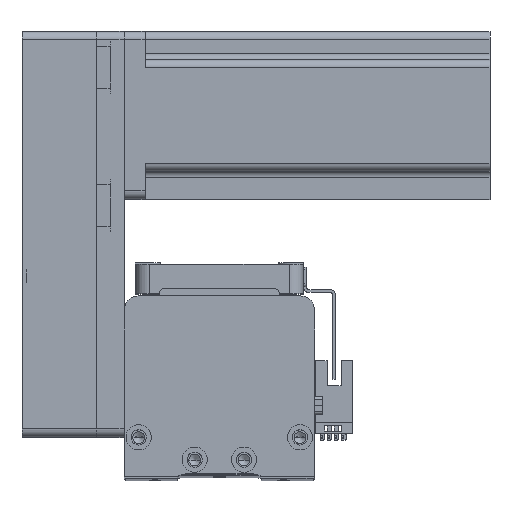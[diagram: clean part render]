
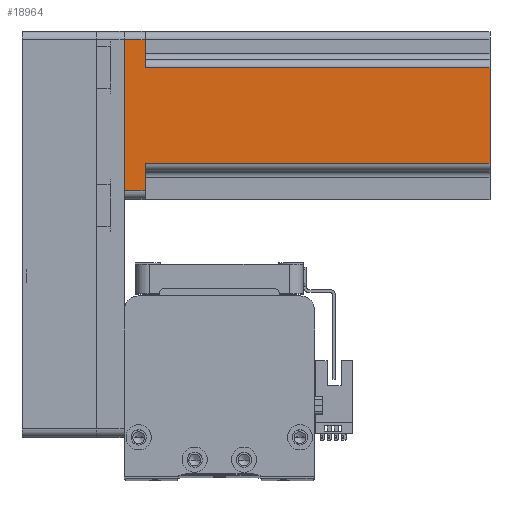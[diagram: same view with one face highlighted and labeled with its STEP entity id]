
A CAD part, top view. The second image highlights one B-rep face of the part: STEP entity #18964.
In plain terms, the highlighted planar face has unit normal (0, 0, 1) as drawn and (0, 1, 0) by its records, which use the part's own axes.
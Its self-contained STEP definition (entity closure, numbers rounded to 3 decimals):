
#1128 = CARTESIAN_POINT ( 'NONE',  ( -27., 30., 0. ) ) ;
#2646 = EDGE_CURVE ( 'NONE', #30415, #27267, #34848, .T. ) ;
#3675 = CARTESIAN_POINT ( 'NONE',  ( -17., 30., 130.7 ) ) ;
#3819 = ORIENTED_EDGE ( 'NONE', *, *, #31545, .T. ) ;
#4423 = PLANE ( 'NONE',  #18613 ) ;
#5655 = VERTEX_POINT ( 'NONE', #42567 ) ;
#6461 = DIRECTION ( 'NONE',  ( 1., 0., 0. ) ) ;
#6669 = CARTESIAN_POINT ( 'NONE',  ( 20., 30., 7.5 ) ) ;
#6757 = VERTEX_POINT ( 'NONE', #14602 ) ;
#7610 = CARTESIAN_POINT ( 'NONE',  ( -17., 30., 7.5 ) ) ;
#7940 = CARTESIAN_POINT ( 'NONE',  ( 27., 30., 0. ) ) ;
#7990 = CARTESIAN_POINT ( 'NONE',  ( -27., 30., 7.5 ) ) ;
#8862 = ORIENTED_EDGE ( 'NONE', *, *, #37207, .T. ) ;
#10083 = DIRECTION ( 'NONE',  ( -1., 0., 0. ) ) ;
#10267 = EDGE_CURVE ( 'NONE', #20567, #13159, #37855, .T. ) ;
#10533 = CARTESIAN_POINT ( 'NONE',  ( 27., 30., 130.7 ) ) ;
#11274 = CARTESIAN_POINT ( 'NONE',  ( 30., 30., 0. ) ) ;
#11606 = VECTOR ( 'NONE', #17337, 1000. ) ;
#12250 = CARTESIAN_POINT ( 'NONE',  ( 30., 30., 130.7 ) ) ;
#12578 = DIRECTION ( 'NONE',  ( 0., 0., 1. ) ) ;
#12686 = VECTOR ( 'NONE', #34375, 1000. ) ;
#13152 = LINE ( 'NONE', #32995, #35005 ) ;
#13159 = VERTEX_POINT ( 'NONE', #7610 ) ;
#14023 = VECTOR ( 'NONE', #32688, 1000. ) ;
#14602 = CARTESIAN_POINT ( 'NONE',  ( 27., 30., 7.5 ) ) ;
#14620 = CARTESIAN_POINT ( 'NONE',  ( 17., 30., 130.7 ) ) ;
#15663 = ORIENTED_EDGE ( 'NONE', *, *, #41218, .T. ) ;
#17337 = DIRECTION ( 'NONE',  ( 0., 0., 1. ) ) ;
#18077 = CARTESIAN_POINT ( 'NONE',  ( 30., 30., 130.7 ) ) ;
#18613 = AXIS2_PLACEMENT_3D ( 'NONE', #18077, #41889, #21501 ) ;
#18964 = ADVANCED_FACE ( 'NONE', ( #37758 ), #4423, .F. ) ;
#18972 = VERTEX_POINT ( 'NONE', #1128 ) ;
#20567 = VERTEX_POINT ( 'NONE', #7990 ) ;
#20588 = EDGE_LOOP ( 'NONE', ( #27795, #41539, #40770, #34418, #41704, #3819, #8862, #15663 ) ) ;
#20656 = LINE ( 'NONE', #3675, #11606 ) ;
#20772 = VECTOR ( 'NONE', #6461, 1000. ) ;
#21501 = DIRECTION ( 'NONE',  ( 1., 0., 0. ) ) ;
#27267 = VERTEX_POINT ( 'NONE', #36945 ) ;
#27405 = VECTOR ( 'NONE', #10083, 1000. ) ;
#27795 = ORIENTED_EDGE ( 'NONE', *, *, #10267, .T. ) ;
#28228 = DIRECTION ( 'NONE',  ( -1., 0., 0. ) ) ;
#29555 = LINE ( 'NONE', #6669, #27405 ) ;
#30279 = CARTESIAN_POINT ( 'NONE',  ( -20., 30., 7.5 ) ) ;
#30415 = VERTEX_POINT ( 'NONE', #14620 ) ;
#30816 = LINE ( 'NONE', #10533, #12686 ) ;
#31443 = EDGE_CURVE ( 'NONE', #6757, #27267, #29555, .T. ) ;
#31545 = EDGE_CURVE ( 'NONE', #6757, #41599, #30816, .T. ) ;
#31553 = EDGE_CURVE ( 'NONE', #13159, #5655, #20656, .T. ) ;
#31580 = CARTESIAN_POINT ( 'NONE',  ( 17., 30., 130.7 ) ) ;
#32139 = LINE ( 'NONE', #12250, #14023 ) ;
#32514 = DIRECTION ( 'NONE',  ( 0., 0., -1. ) ) ;
#32688 = DIRECTION ( 'NONE',  ( -1., 0., 0. ) ) ;
#32995 = CARTESIAN_POINT ( 'NONE',  ( -27., 30., 130.7 ) ) ;
#33535 = EDGE_CURVE ( 'NONE', #30415, #5655, #32139, .T. ) ;
#34375 = DIRECTION ( 'NONE',  ( 0., 0., -1. ) ) ;
#34418 = ORIENTED_EDGE ( 'NONE', *, *, #2646, .T. ) ;
#34756 = LINE ( 'NONE', #11274, #42672 ) ;
#34848 = LINE ( 'NONE', #31580, #40657 ) ;
#35005 = VECTOR ( 'NONE', #12578, 1000. ) ;
#36945 = CARTESIAN_POINT ( 'NONE',  ( 17., 30., 7.5 ) ) ;
#37207 = EDGE_CURVE ( 'NONE', #41599, #18972, #34756, .T. ) ;
#37758 = FACE_OUTER_BOUND ( 'NONE', #20588, .T. ) ;
#37855 = LINE ( 'NONE', #30279, #20772 ) ;
#40657 = VECTOR ( 'NONE', #32514, 1000. ) ;
#40770 = ORIENTED_EDGE ( 'NONE', *, *, #33535, .F. ) ;
#41218 = EDGE_CURVE ( 'NONE', #18972, #20567, #13152, .T. ) ;
#41539 = ORIENTED_EDGE ( 'NONE', *, *, #31553, .T. ) ;
#41599 = VERTEX_POINT ( 'NONE', #7940 ) ;
#41704 = ORIENTED_EDGE ( 'NONE', *, *, #31443, .F. ) ;
#41889 = DIRECTION ( 'NONE',  ( 0., -1., 0. ) ) ;
#42567 = CARTESIAN_POINT ( 'NONE',  ( -17., 30., 130.7 ) ) ;
#42672 = VECTOR ( 'NONE', #28228, 1000. ) ;
